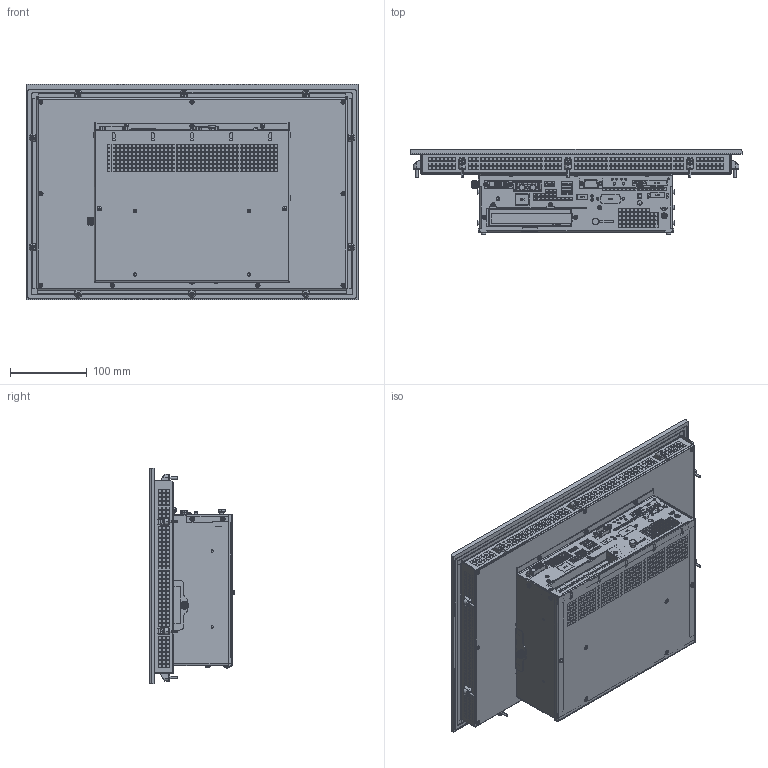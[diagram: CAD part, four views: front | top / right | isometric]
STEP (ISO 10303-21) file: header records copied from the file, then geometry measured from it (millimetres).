
FILE_DESCRIPTION((''),'2;1');
FILE_NAME('C6E22-Panel_156W_CAP_S1_','2017-03-07T',('manpal'),(''),'PRO/ENGINEER BY PARAMETRIC TECHNOLOGY CORPORATION, 2013410','PRO/ENGINEER BY PARAMETRIC TECHNOLOGY CORPORATION, 2013410','');
FILE_SCHEMA(('AUTOMOTIVE_DESIGN { 1 0 10303 214 1 1 1 1 }'));
Products named in the file (2): C6E22-Panel_156W_CAP_S1_
Assembly tree (1 placements, depth 2):
  C6E22-Panel_156W_CAP_S1_
    C6E22-Panel_156W_CAP_S1_
Bounding box: 433 x 111.19 x 280.5 mm (x, y, z)
Surface area: 836526.9 mm2 (no closed solid volume)
Topology: 0 solids, 349 shells, 5488 faces, 24205 edges, 18852 vertices
Faces by surface type: plane 4236, cylinder 734, cone 278, bspline 168, sphere 42, torus 28, extrusion 2
Entity records: 275141 total; most frequent: CARTESIAN_POINT 64810, DIRECTION 36632, ORIENTED_EDGE 34671, EDGE_CURVE 24161, VECTOR 19806, LINE 19804, VERTEX_POINT 18852, AXIS2_PLACEMENT_3D 8413
